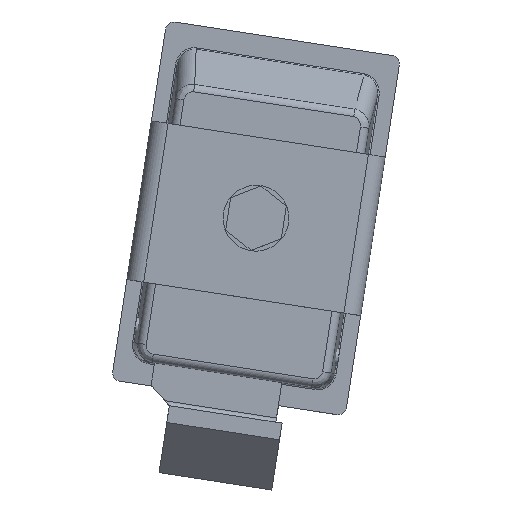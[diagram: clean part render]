
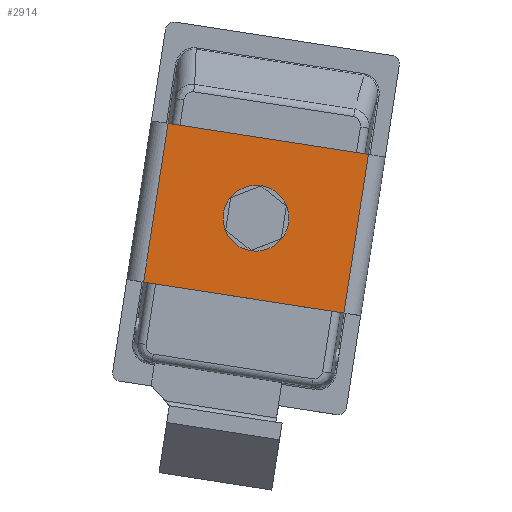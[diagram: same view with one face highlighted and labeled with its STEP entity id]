
A CAD part, top view. The second image highlights one B-rep face of the part: STEP entity #2914.
In plain terms, the highlighted planar face has unit normal (0, 0, 1).
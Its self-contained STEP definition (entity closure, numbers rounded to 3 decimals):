
#141=PLANE('',#3224);
#372=LINE('',#5341,#620);
#374=LINE('',#5347,#622);
#382=LINE('',#5365,#630);
#383=LINE('',#5366,#631);
#620=VECTOR('',#4039,19.);
#622=VECTOR('',#4045,24.);
#630=VECTOR('',#4057,24.);
#631=VECTOR('',#4058,19.);
#734=FACE_BOUND('',#1106,.T.);
#900=FACE_OUTER_BOUND('',#1105,.T.);
#1105=EDGE_LOOP('',(#2641,#2642,#2643,#2644));
#1106=EDGE_LOOP('',(#2645));
#1217=CIRCLE('',#3218,2.25);
#1462=VERTEX_POINT('',#5334);
#1464=VERTEX_POINT('',#5338);
#1465=VERTEX_POINT('',#5340);
#1467=VERTEX_POINT('',#5346);
#1475=VERTEX_POINT('',#5364);
#1854=EDGE_CURVE('',#1462,#1462,#1217,.T.);
#1856=EDGE_CURVE('',#1464,#1465,#372,.T.);
#1859=EDGE_CURVE('',#1467,#1465,#374,.T.);
#1868=EDGE_CURVE('',#1464,#1475,#382,.T.);
#1869=EDGE_CURVE('',#1467,#1475,#383,.T.);
#2641=ORIENTED_EDGE('',*,*,#1856,.F.);
#2642=ORIENTED_EDGE('',*,*,#1868,.T.);
#2643=ORIENTED_EDGE('',*,*,#1869,.F.);
#2644=ORIENTED_EDGE('',*,*,#1859,.T.);
#2645=ORIENTED_EDGE('',*,*,#1854,.T.);
#2914=ADVANCED_FACE('',(#900,#734),#141,.T.);
#3218=AXIS2_PLACEMENT_3D('',#5335,#4033,#4034);
#3224=AXIS2_PLACEMENT_3D('',#5363,#4055,#4056);
#4033=DIRECTION('center_axis',(0.,0.,-1.));
#4034=DIRECTION('ref_axis',(-1.,0.,0.));
#4039=DIRECTION('',(0.,1.,0.));
#4045=DIRECTION('',(-1.,0.,0.));
#4055=DIRECTION('center_axis',(0.,0.,1.));
#4056=DIRECTION('ref_axis',(1.,0.,0.));
#4057=DIRECTION('',(1.,0.,0.));
#4058=DIRECTION('',(0.,-1.,0.));
#5334=CARTESIAN_POINT('',(2.25,0.,1.5));
#5335=CARTESIAN_POINT('Origin',(0.,0.,1.5));
#5338=CARTESIAN_POINT('',(-12.,-9.5,1.5));
#5340=CARTESIAN_POINT('',(-12.,9.5,1.5));
#5341=CARTESIAN_POINT('',(-12.,4.75,1.5));
#5346=CARTESIAN_POINT('',(12.,9.5,1.5));
#5347=CARTESIAN_POINT('',(14.,9.5,1.5));
#5363=CARTESIAN_POINT('Origin',(0.,0.,1.5));
#5364=CARTESIAN_POINT('',(12.,-9.5,1.5));
#5365=CARTESIAN_POINT('',(-14.,-9.5,1.5));
#5366=CARTESIAN_POINT('',(12.,-4.75,1.5));
